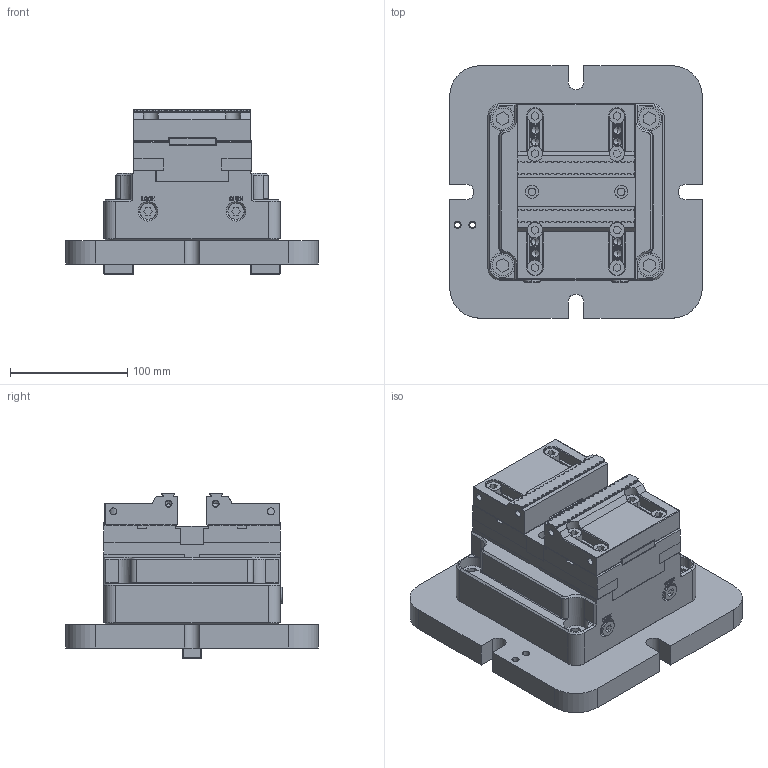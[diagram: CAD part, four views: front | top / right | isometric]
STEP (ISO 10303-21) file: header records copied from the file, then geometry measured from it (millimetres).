
FILE_DESCRIPTION (( 'STEP AP214' ), '1' );
FILE_NAME ('100mm-VMC Pneumatic VISE.STEP', '2021-09-16T19:46:11', ( '' ), ( '' ), 'SwSTEP 2.0', 'SolidWorks 2020', '' );
FILE_SCHEMA (( 'AUTOMOTIVE_DESIGN' ));
Length unit declared in the file: inch
Products named in the file (19): 40-0159_40-0159; 10000183351; 10000183349; 10000183350; 10000183353; Slide-Assembly_Coincident; ADDITIONAL HARDWARE-vmc-100mm-air; 40-1646_40-1646; JAWS-vmc-100mm-air; 10000183348; 100mm-VMC Pneumatic VISE; BODY-vmc-100mm-air; 58-3105; 10000155647_BOM Item; 10000183347; 10000006235_DEFAULT; 10000012881; 10000159732; 10000183356
Assembly tree (41 placements, depth 4):
  100mm-VMC Pneumatic VISE
    BODY-vmc-100mm-air
      Slide-Assembly_Coincident
        10000183351  x2
        10000183347
        10000183353
        10000183349
        10000183350  x2
      10000183348
      10000183356
      40-0159_40-0159  x4
    JAWS-vmc-100mm-air
      10000159732  x2
      40-1646_40-1646  x8
    ADDITIONAL HARDWARE-vmc-100mm-air
      58-3105  x2
      10000006235_DEFAULT  x2
      10000155647_BOM Item  x2
      10000012881  x8
Bounding box: 215 x 215 x 140.32 mm (x, y, z)
Volume: 2266808.2 mm3; surface area: 407963.9 mm2
Topology: 37 solids, 37 shells, 3815 faces, 10566 edges, 6885 vertices
Faces by surface type: plane 2947, cylinder 581, cone 234, bspline 49, torus 4
Entity records: 76731 total; most frequent: CARTESIAN_POINT 14568, ORIENTED_EDGE 11666, DIRECTION 10438, EDGE_CURVE 5833, VECTOR 4550, LINE 4550, VERTEX_POINT 3821, AXIS2_PLACEMENT_3D 2944
